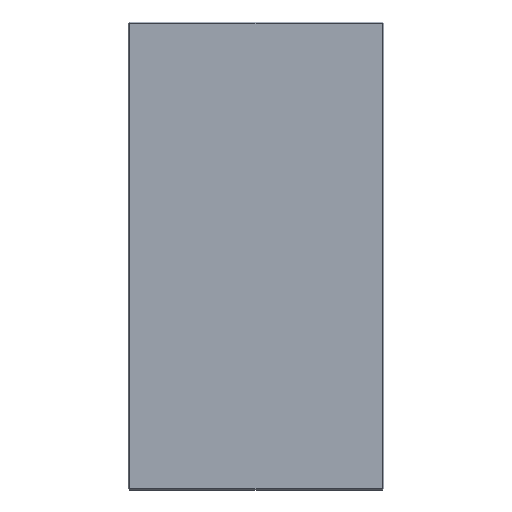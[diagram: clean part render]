
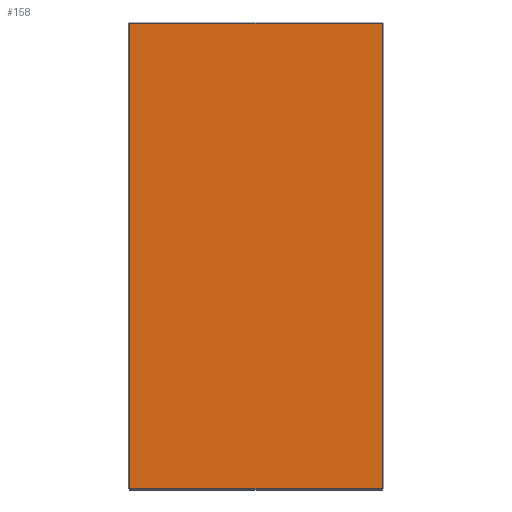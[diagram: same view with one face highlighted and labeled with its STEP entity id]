
A CAD part, front view. The second image highlights one B-rep face of the part: STEP entity #158.
In plain terms, the highlighted planar face has unit normal (0, -1, 0).
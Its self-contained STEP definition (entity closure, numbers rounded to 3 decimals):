
#8 = VERTEX_POINT ( 'NONE', #630 ) ;
#27 = VECTOR ( 'NONE', #521, 1000. ) ;
#73 = LINE ( 'NONE', #485, #27 ) ;
#158 = ADVANCED_FACE ( 'NONE', ( #381 ), #317, .T. ) ;
#161 = VERTEX_POINT ( 'NONE', #577 ) ;
#164 = EDGE_CURVE ( 'NONE', #161, #621, #334, .T. ) ;
#177 = VERTEX_POINT ( 'NONE', #611 ) ;
#189 = DIRECTION ( 'NONE',  ( 0., 0., 1. ) ) ;
#301 = AXIS2_PLACEMENT_3D ( 'NONE', #587, #589, #590 ) ;
#317 = PLANE ( 'NONE',  #301 ) ;
#334 = LINE ( 'NONE', #529, #342 ) ;
#342 = VECTOR ( 'NONE', #189, 1000. ) ;
#376 = CARTESIAN_POINT ( 'NONE',  ( 108., 0., -197. ) ) ;
#381 = FACE_OUTER_BOUND ( 'NONE', #631, .T. ) ;
#432 = EDGE_CURVE ( 'NONE', #621, #177, #73, .T. ) ;
#465 = VECTOR ( 'NONE', #527, 1000. ) ;
#479 = DIRECTION ( 'NONE',  ( 1., 0., 0. ) ) ;
#485 = CARTESIAN_POINT ( 'NONE',  ( -108., 0., 197. ) ) ;
#493 = CARTESIAN_POINT ( 'NONE',  ( -107., 0., -198. ) ) ;
#497 = LINE ( 'NONE', #493, #465 ) ;
#499 = CARTESIAN_POINT ( 'NONE',  ( 107., 0., 197. ) ) ;
#505 = ORIENTED_EDGE ( 'NONE', *, *, #164, .T. ) ;
#521 = DIRECTION ( 'NONE',  ( -1., 0., 0. ) ) ;
#527 = DIRECTION ( 'NONE',  ( 0., 0., -1. ) ) ;
#529 = CARTESIAN_POINT ( 'NONE',  ( 107., 0., 198. ) ) ;
#534 = ORIENTED_EDGE ( 'NONE', *, *, #432, .T. ) ;
#542 = EDGE_CURVE ( 'NONE', #8, #161, #555, .T. ) ;
#545 = VECTOR ( 'NONE', #479, 1000. ) ;
#555 = LINE ( 'NONE', #376, #545 ) ;
#568 = ORIENTED_EDGE ( 'NONE', *, *, #542, .T. ) ;
#577 = CARTESIAN_POINT ( 'NONE',  ( 107., 0., -197. ) ) ;
#587 = CARTESIAN_POINT ( 'NONE',  ( 0., 0., 0. ) ) ;
#589 = DIRECTION ( 'NONE',  ( 0., -1., 0. ) ) ;
#590 = DIRECTION ( 'NONE',  ( 0., 0., -1. ) ) ;
#611 = CARTESIAN_POINT ( 'NONE',  ( -107., 0., 197. ) ) ;
#617 = EDGE_CURVE ( 'NONE', #177, #8, #497, .T. ) ;
#621 = VERTEX_POINT ( 'NONE', #499 ) ;
#628 = ORIENTED_EDGE ( 'NONE', *, *, #617, .T. ) ;
#630 = CARTESIAN_POINT ( 'NONE',  ( -107., 0., -197. ) ) ;
#631 = EDGE_LOOP ( 'NONE', ( #628, #568, #505, #534 ) ) ;
